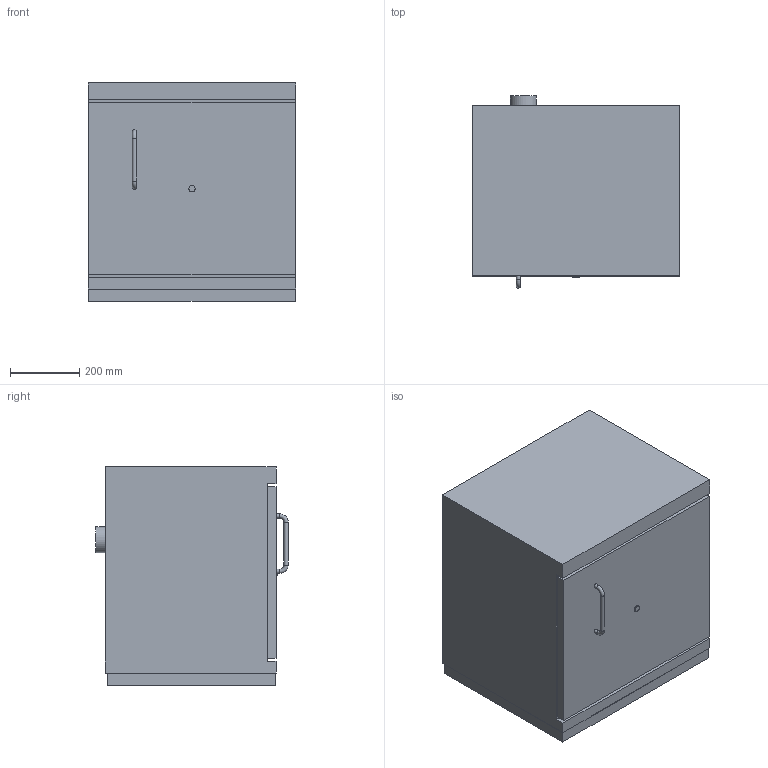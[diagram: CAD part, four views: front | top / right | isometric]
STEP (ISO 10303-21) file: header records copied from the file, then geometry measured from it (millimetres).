
FILE_DESCRIPTION(/* description */ ('Unknown'),/* implementation_level */ '2;1');
FILE_NAME(/* name */ '29-060657_VDK',/* time_stamp */ '2019-04-10T11:12:58+02:00',/* author */ ('Unknown'),/* organization */ ('Unknown'),/* preprocessor_version */ 'ST-DEVELOPER v16.7',/* originating_system */ 'DEX',/* authorisation */ $);
FILE_SCHEMA (('AUTOMOTIVE_DESIGN {1 0 10303 214 3 1 1}'));
Length unit declared in the file: millimetre
Products named in the file (1): 29-060657_VDK
Bounding box: 601 x 556 x 631 mm (x, y, z)
Volume: 186656585.7 mm3; surface area: 2052552.5 mm2
Topology: 1 solids, 1 shells, 31 faces, 71 edges, 47 vertices
Faces by surface type: plane 23, cylinder 6, torus 2
Full cylindrical faces by diameter (mm): 12 x3, 18 x1, 75 x2
Entity records: 1049 total; most frequent: DIRECTION 136, CARTESIAN_POINT 136, ORIENTED_EDGE 120, EDGE_CURVE 60, LINE 48, VECTOR 48, EDGE_LOOP 46, FACE_BOUND 46
